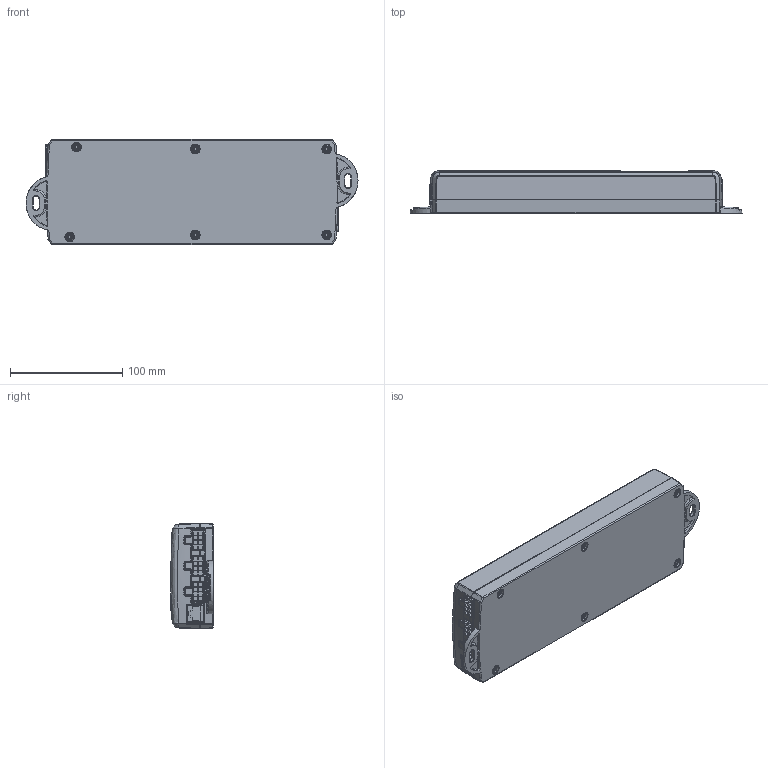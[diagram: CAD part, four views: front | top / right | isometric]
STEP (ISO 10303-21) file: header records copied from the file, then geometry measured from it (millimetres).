
FILE_DESCRIPTION (( 'STEP AP203' ), '1' );
FILE_NAME ('TC16P.STEP', '2018-12-19T07:24:08', ( '' ), ( '' ), 'SwSTEP 2.0', 'SolidWorks 2015', '' );
FILE_SCHEMA (( 'CONFIG_CONTROL_DESIGN' ));
Length unit declared in the file: millimetre
Products named in the file (7): M4自攻螺絲-1; TC16P; 31605-387-C; 31605-388-C; 控制板2; 插頭; 電源板1
Assembly tree (13 placements, depth 2):
  TC16P
    31605-387-C
    31605-388-C
    控制板2
    插頭  x3
    電源板1
    M4自攻螺絲-1  x6
Bounding box: 295.99 x 38.13 x 93.99 mm (x, y, z)
Volume: 891267.4 mm3; surface area: 140126 mm2
Topology: 13 solids, 16 shells, 1257 faces, 3251 edges, 2063 vertices
Faces by surface type: plane 567, cylinder 293, bspline 221, torus 87, sphere 48, cone 41
Entity records: 36014 total; most frequent: CARTESIAN_POINT 13221, ORIENTED_EDGE 4968, DIRECTION 4041, EDGE_CURVE 2484, VERTEX_POINT 1574, AXIS2_PLACEMENT_3D 1444, LINE 1153, VECTOR 1153
